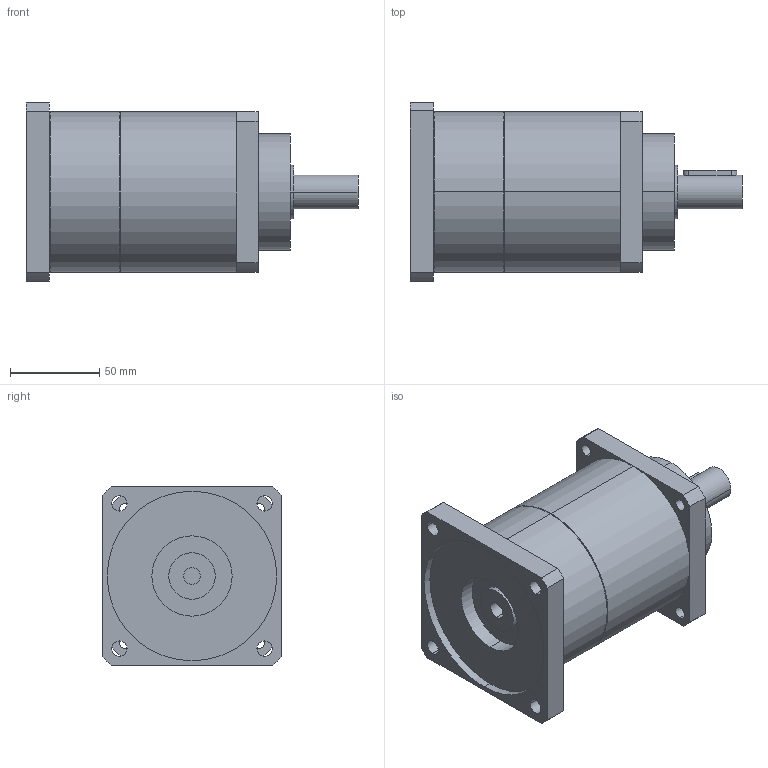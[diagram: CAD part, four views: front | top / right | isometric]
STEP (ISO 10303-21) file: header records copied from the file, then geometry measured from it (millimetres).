
FILE_DESCRIPTION(('CoCreate Modeling STEP Export'),'2;1');
FILE_NAME('GPT90_ig-9-12-16-20-25-28-35-40-50-70-100_19_B5T_9.525_P07.stp','2015-02-04T11:34:55',(''),(''),'CoCreate Modeling STEP processor for AP214 (Solid Model)','CoCreate Modeling 16.00C 25-Feb-2009 (C) Parametric Technology GmbH','');
FILE_SCHEMA(('AUTOMOTIVE_DESIGN { 1 0 10303 214 1 1 1 1 }'));
Length unit declared in the file: millimetre
Products named in the file (2): GPT90_ig-9-12-16-20-25-28-35-40-50-70-100_19_B5T_9.525_P07
Assembly tree (1 placements, depth 2):
  GPT90_ig-9-12-16-20-25-28-35-40-50-70-100_19_B5T_9.525_P07
    GPT90_ig-9-12-16-20-25-28-35-40-50-70-100_19_B5T_9.525_P07
Bounding box: 186 x 100 x 100 mm (x, y, z)
Volume: 914156.7 mm3; surface area: 74623.9 mm2
Topology: 1 solids, 1 shells, 77 faces, 206 edges, 141 vertices
Faces by surface type: cylinder 46, plane 27, cone 4
Entity records: 2596 total; most frequent: CARTESIAN_POINT 742, ORIENTED_EDGE 412, DIRECTION 324, EDGE_CURVE 206, VERTEX_POINT 141, AXIS2_PLACEMENT_3D 120, EDGE_LOOP 103, VECTOR 84
